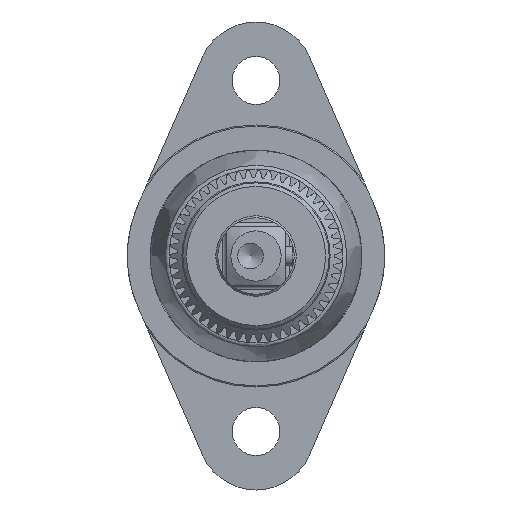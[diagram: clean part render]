
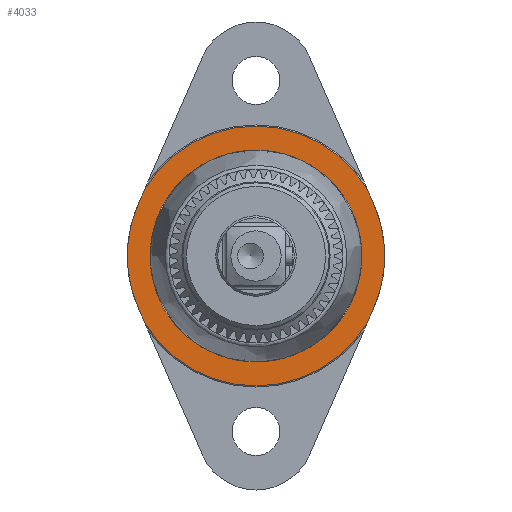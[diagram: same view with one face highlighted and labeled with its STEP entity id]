
A CAD part, left-side view. The second image highlights one B-rep face of the part: STEP entity #4033.
In plain terms, the highlighted planar face has unit normal (-1, 0, 0).
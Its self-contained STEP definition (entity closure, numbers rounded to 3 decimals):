
#579=LINE('',#40679,#1068);
#580=LINE('',#40683,#1069);
#581=LINE('',#40684,#1070);
#582=LINE('',#40688,#1071);
#1068=VECTOR('',#16000,1.);
#1069=VECTOR('',#16003,1.);
#1070=VECTOR('',#16004,1.);
#1071=VECTOR('',#16007,1.);
#1790=PLANE('',#14167);
#3282=FACE_OUTER_BOUND('',#5271,.T.);
#4033=ADVANCED_FACE('',(#3282,#4798),#1790,.T.);
#4798=FACE_BOUND('',#5272,.T.);
#5271=EDGE_LOOP('',(#7567,#7568,#7569,#7570,#7571,#7572,#7573,#7574));
#5272=EDGE_LOOP('',(#7575));
#7567=ORIENTED_EDGE('',*,*,#12077,.F.);
#7568=ORIENTED_EDGE('',*,*,#12078,.F.);
#7569=ORIENTED_EDGE('',*,*,#12079,.F.);
#7570=ORIENTED_EDGE('',*,*,#12061,.T.);
#7571=ORIENTED_EDGE('',*,*,#12080,.F.);
#7572=ORIENTED_EDGE('',*,*,#12081,.F.);
#7573=ORIENTED_EDGE('',*,*,#12082,.F.);
#7574=ORIENTED_EDGE('',*,*,#12057,.T.);
#7575=ORIENTED_EDGE('',*,*,#11295,.T.);
#9973=VERTEX_POINT('',#32945);
#10486=VERTEX_POINT('',#40521);
#10487=VERTEX_POINT('',#40523);
#10489=VERTEX_POINT('',#40528);
#10491=VERTEX_POINT('',#40532);
#10502=VERTEX_POINT('',#40680);
#10503=VERTEX_POINT('',#40682);
#10504=VERTEX_POINT('',#40685);
#10505=VERTEX_POINT('',#40687);
#11295=EDGE_CURVE('',#9973,#9973,#13060,.T.);
#12057=EDGE_CURVE('',#10486,#10487,#13301,.T.);
#12061=EDGE_CURVE('',#10489,#10491,#13303,.T.);
#12077=EDGE_CURVE('',#10502,#10487,#579,.T.);
#12078=EDGE_CURVE('',#10503,#10502,#13309,.T.);
#12079=EDGE_CURVE('',#10489,#10503,#580,.T.);
#12080=EDGE_CURVE('',#10504,#10491,#581,.T.);
#12081=EDGE_CURVE('',#10505,#10504,#13310,.T.);
#12082=EDGE_CURVE('',#10486,#10505,#582,.T.);
#13060=CIRCLE('',#13616,21.692);
#13301=CIRCLE('',#14150,28.194);
#13303=CIRCLE('',#14153,28.194);
#13309=CIRCLE('',#14165,27.94);
#13310=CIRCLE('',#14166,27.94);
#13616=AXIS2_PLACEMENT_3D('',#32944,#14803,#14804);
#14150=AXIS2_PLACEMENT_3D('',#40524,#15962,#15963);
#14153=AXIS2_PLACEMENT_3D('',#40533,#15970,#15971);
#14165=AXIS2_PLACEMENT_3D('',#40681,#16001,#16002);
#14166=AXIS2_PLACEMENT_3D('',#40686,#16005,#16006);
#14167=AXIS2_PLACEMENT_3D('',#40689,#16008,#16009);
#14803=DIRECTION('',(1.,0.,0.));
#14804=DIRECTION('',(0.,1.,0.));
#15962=DIRECTION('',(-1.,0.,0.));
#15963=DIRECTION('',(0.,1.,0.));
#15970=DIRECTION('',(-1.,0.,0.));
#15971=DIRECTION('',(0.,1.,0.));
#16000=DIRECTION('',(0.,0.4,-0.917));
#16001=DIRECTION('',(1.,0.,0.));
#16002=DIRECTION('',(0.,1.,0.));
#16003=DIRECTION('',(0.,-0.4,-0.917));
#16004=DIRECTION('',(0.,-0.4,0.917));
#16005=DIRECTION('',(1.,0.,0.));
#16006=DIRECTION('',(0.,1.,0.));
#16007=DIRECTION('',(0.,0.4,0.917));
#16008=DIRECTION('',(-1.,0.,0.));
#16009=DIRECTION('',(0.,1.,0.));
#32944=CARTESIAN_POINT('',(-93.892,0.027,0.483));
#32945=CARTESIAN_POINT('',(-93.892,21.719,0.483));
#40521=CARTESIAN_POINT('',(-93.892,24.124,-14.154));
#40523=CARTESIAN_POINT('',(-93.892,-24.07,-14.154));
#40524=CARTESIAN_POINT('',(-93.892,0.027,0.483));
#40528=CARTESIAN_POINT('',(-93.892,-24.07,15.12));
#40532=CARTESIAN_POINT('',(-93.892,24.124,15.12));
#40533=CARTESIAN_POINT('',(-93.892,0.027,0.483));
#40679=CARTESIAN_POINT('',(-93.892,-17.907,-28.274));
#40680=CARTESIAN_POINT('',(-93.892,-25.58,-10.693));
#40681=CARTESIAN_POINT('',(-93.892,0.027,0.483));
#40682=CARTESIAN_POINT('',(-93.892,-25.58,11.659));
#40683=CARTESIAN_POINT('',(-93.892,-33.253,-5.922));
#40684=CARTESIAN_POINT('',(-93.892,33.308,-5.922));
#40685=CARTESIAN_POINT('',(-93.892,25.635,11.659));
#40686=CARTESIAN_POINT('',(-93.892,0.027,0.483));
#40687=CARTESIAN_POINT('',(-93.892,25.635,-10.693));
#40688=CARTESIAN_POINT('',(-93.892,17.962,-28.274));
#40689=CARTESIAN_POINT('',(-93.892,0.027,-20.447));
